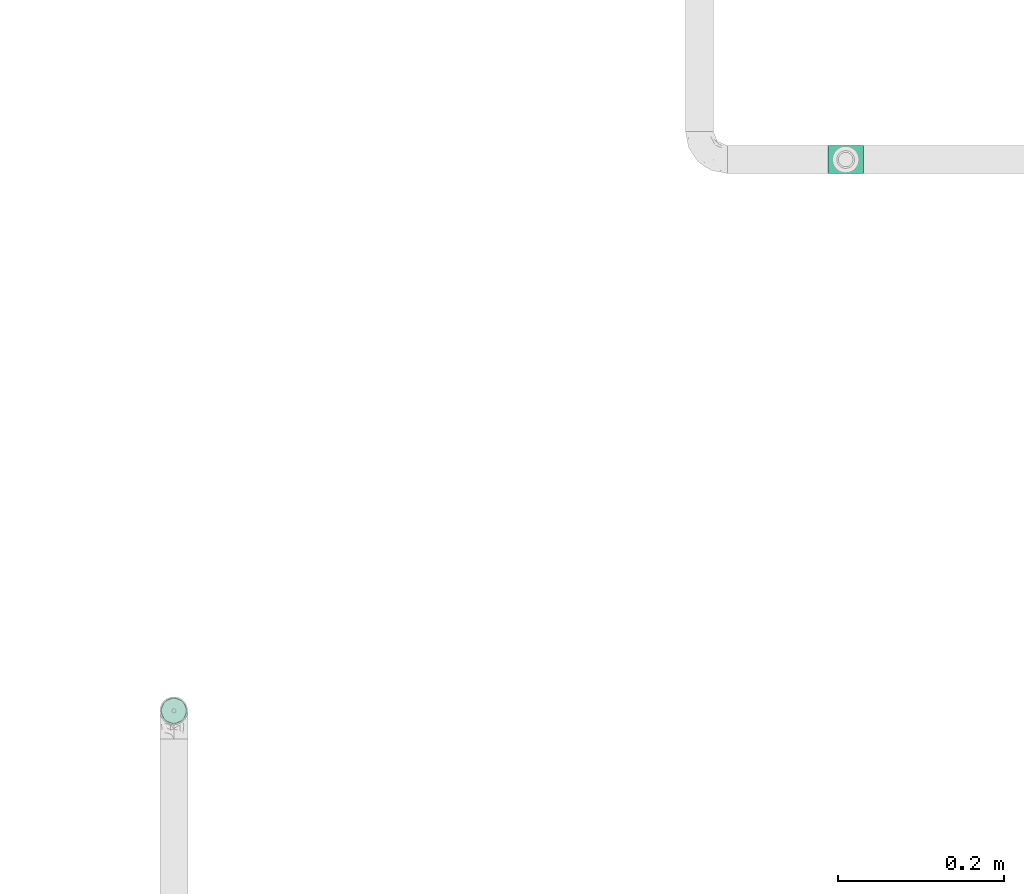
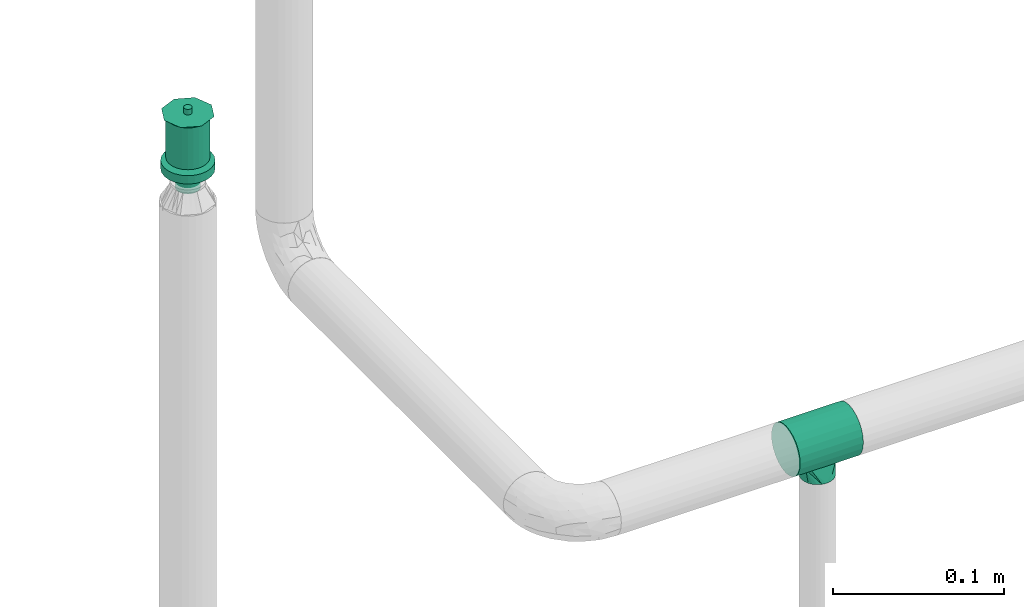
# One storey, part 62 of 94: 1 flow fitting, 1 flow terminal.
"""IFC2X3 building model written with IfcOpenShell, lengths in millimetres."""

from ifc_helpers import new_model, entity, si_unit, converted_unit, derived_unit, direction, frame, origin_with_axes, place, context, subcontext, project, spatial, open_shell, surface_model, source, transform, mapped, type_object, element, save


model = new_model("IFC2X3")

# Units and contexts
model_context = context("Model", 3, precision=0.01, world=frame((0.0, 4.29681676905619e-09, 0.0)), true_north=direction((4.01073788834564e-13, 1.0)))
plan_context = context("Plan", 3, precision=0.01, world=frame((0.0, 4.29681676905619e-09, 0.0)), true_north=direction((4.01073788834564e-13, 1.0)))
body_context = subcontext(model_context, "Body", "Model", "MODEL_VIEW")
ifc_project = project(units=[converted_unit("PLANEANGLEUNIT", "DEGREE", entity("IfcPositiveLengthMeasure", 0.0174532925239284), si_unit("PLANEANGLEUNIT", "RADIAN"), dimensions=[0, 0, 0, 0, 0, 0, 0]), si_unit("AREAUNIT", "SQUARE_METRE"), si_unit("LENGTHUNIT", "METRE", prefix="MILLI"), si_unit("MASSUNIT", "GRAM", prefix="KILO"), si_unit("POWERUNIT", "WATT"), si_unit("PRESSUREUNIT", "PASCAL", prefix="KILO"), si_unit("FORCEUNIT", "NEWTON", prefix="KILO"), si_unit("ELECTRICVOLTAGEUNIT", "VOLT"), si_unit("ELECTRICCURRENTUNIT", "AMPERE"), si_unit("THERMODYNAMICTEMPERATUREUNIT", "DEGREE_CELSIUS"), si_unit("TIMEUNIT", "SECOND"), si_unit("VOLUMEUNIT", "CUBIC_METRE"), derived_unit("LINEARVELOCITYUNIT", [(si_unit("LENGTHUNIT", "METRE"), 1), (si_unit("TIMEUNIT", "SECOND"), -1)]), derived_unit("VOLUMETRICFLOWRATEUNIT", [(si_unit("VOLUMEUNIT", "CUBIC_METRE"), 1), (si_unit("TIMEUNIT", "SECOND"), -1)]), derived_unit("THERMALTRANSMITTANCEUNIT", [(si_unit("POWERUNIT", "WATT"), 1), (si_unit("THERMODYNAMICTEMPERATUREUNIT", "KELVIN"), -1), (si_unit("AREAUNIT", "SQUARE_METRE"), -1)]), derived_unit("SOUNDPRESSUREUNIT", [(si_unit("PRESSUREUNIT", "PASCAL"), 1)])], contexts=[model_context, plan_context])

# Site, building, storey
site_placement = place(None, frame((0.0, -4.29681676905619e-09, 0.0), z_axis=(0.0, 0.0, 1.0), x_axis=(1.0, 0.0, 0.0)))
site = spatial("IfcSite", under=ifc_project, at=site_placement, CompositionType="ELEMENT")
building_placement = place(site_placement, frame((0.0, 4.29681676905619e-09, 0.0), z_axis=(0.0, 0.0, 1.0), x_axis=(1.0, 0.0, 0.0)))
building = spatial("IfcBuilding", under=site, at=building_placement, Name="mc-building", CompositionType="ELEMENT")
storey_placement = place(building_placement, frame((0.0, 0.0, 210900.0), z_axis=(0.0, 0.0, 1.0), x_axis=(1.0, 0.0, 0.0)))
storey = spatial("IfcBuildingStorey", under=building, at=storey_placement, Name="Nivå F", CompositionType="ELEMENT", Elevation=210900.0)

# Flow fitting
pipe_fitting_type = type_object("IfcPipeFittingType", Name="magi_pipe_fe_tee_centric_90_NOR", PredefinedType="JUNCTION")
shared_shape_1 = source(origin_with_axes(), body_context, "Body", "SurfaceModel", [
    surface_model("IfcShellBasedSurfaceModel", [(-21.4, 0.0, -16.9), (-21.4, -16.9, 0.0), (-21.4, 4.37404, -16.32415), (-21.4, 8.45, -14.63583), (-21.4, 11.9501, -11.9501), (-21.4, 16.32415, -4.37404), (-21.4, 14.63583, -8.45), (-21.4, -16.32415, 4.37404), (-21.4, -11.9501, -11.9501), (-21.4, -14.63583, -8.45), (-21.4, -8.45, -14.63583), (-21.4, -4.37404, -16.32415), (-21.4, -16.32415, -4.37404), (-21.4, 16.32415, 4.37404), (-21.4, 16.9, 0.0), (-21.4, 8.45, 14.63583), (-21.4, 14.63583, 8.45), (-21.4, -8.45, 14.63583), (-21.4, 11.9501, 11.9501), (-21.4, 4.37404, 16.32415), (-21.4, -11.9501, 11.9501), (-21.4, -14.63583, 8.45), (-21.4, -4.37404, 16.32415), (-21.4, 0.0, 16.9), (21.4, 4.37404, -16.32415), (21.4, -16.32415, -4.37404), (21.4, 0.0, -16.9), (21.4, 14.63583, -8.45), (21.4, 8.45, -14.63583), (21.4, 8.45, 14.63583), (21.4, 11.9501, -11.9501), (21.4, -11.9501, -11.9501), (21.4, -8.45, -14.63583), (21.4, -4.37404, -16.32415), (21.4, -14.63583, -8.45), (21.4, -16.9, 0.0), (21.4, 16.32415, -4.37404), (21.4, 16.32415, 4.37404), (21.4, 14.63583, 8.45), (21.4, -8.45, 14.63583), (21.4, 11.9501, 11.9501), (21.4, 4.37404, 16.32415), (21.4, -14.63583, 8.45), (21.4, -11.9501, 11.9501), (21.4, -16.32415, 4.37404), (21.4, 0.0, 16.9), (21.4, -4.37404, 16.32415), (21.4, 16.9, 0.0), (10.02449, -16.48061, 3.7416), (10.7, -16.9, 0.0), (8.16297, -15.41927, 6.9178), (5.39457, -14.14996, 9.24059), (21.4, -15.47999, 6.41202), (1.90748, -13.21962, 10.5286), (-8.16537, -15.42055, 6.91497), (-21.4, -15.47999, 6.41202), (-10.02486, -16.48083, 3.74061), (-21.4, -16.61207, 2.18702), (-10.36243, -16.69042, 1.8703), (-10.7, -16.9, 0.0), (-5.39553, -14.15033, 9.24003), (-1.91068, -13.22009, 10.52802), (-8.16537, -15.42055, -6.91497), (-21.4, -15.47999, -6.41202), (8.16297, -15.41927, -6.9178), (21.4, -15.47999, -6.41202), (-10.36243, -16.69042, -1.8703), (5.39457, -14.14996, -9.24059), (-21.4, -16.61207, -2.18702), (-10.02486, -16.48083, -3.74061), (1.90748, -13.21962, -10.5286), (10.02449, -16.48061, -3.7416), (-1.91068, -13.22009, -10.52802), (-5.39553, -14.15033, -9.24003), (0.0, -25.35, -10.7), (2.76936, -25.35, -10.33541), (5.35, -25.35, -9.26647), (7.56604, -25.35, -7.56604), (2.76936, -25.35, 10.33541), (9.26647, -25.35, -5.35), (-7.56604, -25.35, -7.56604), (-2.76936, -25.35, -10.33541), (-5.35, -25.35, -9.26647), (-9.26647, -25.35, -5.35), (-10.7, -25.35, 0.0), (-10.33541, -25.35, -2.76936), (10.7, -25.35, 0.0), (10.33541, -25.35, -2.76936), (10.33541, -25.35, 2.76936), (9.26647, -25.35, 5.35), (7.56604, -25.35, 7.56604), (5.35, -25.35, 9.26647), (-10.33541, -25.35, 2.76936), (-7.56604, -25.35, 7.56604), (-9.26647, -25.35, 5.35), (0.0, -25.35, 10.7), (-2.76936, -25.35, 10.33541), (-5.35, -25.35, 9.26647)], [open_shell([[[0, 1, 2]], [[3, 2, 4]], [[2, 5, 6]], [[4, 2, 6]], [[2, 1, 7]], [[8, 9, 10]], [[0, 11, 10]], [[12, 1, 9]], [[10, 9, 1]], [[10, 1, 0]], [[7, 5, 2]], [[13, 14, 15]], [[16, 13, 15]], [[17, 15, 14]], [[18, 16, 15]], [[19, 15, 17]], [[20, 17, 21]], [[7, 21, 17]], [[22, 23, 17]], [[14, 7, 17]], [[17, 23, 19]], [[5, 7, 14]], [[24, 25, 26]], [[27, 24, 28]], [[25, 24, 29]], [[27, 28, 30]], [[29, 24, 27]], [[26, 31, 32]], [[32, 33, 26]], [[26, 25, 34]], [[31, 26, 34]], [[35, 25, 29]], [[27, 36, 37]], [[37, 38, 27]], [[27, 38, 29]], [[39, 35, 29]], [[29, 38, 40]], [[39, 29, 41]], [[42, 39, 43]], [[39, 42, 44]], [[39, 45, 46]], [[44, 35, 39]], [[41, 45, 39]], [[36, 47, 37]], [[35, 44, 48]], [[48, 49, 35]], [[44, 50, 48]], [[42, 43, 51]], [[50, 44, 52]], [[51, 50, 42]], [[53, 51, 43]], [[43, 20, 53]], [[42, 50, 52]], [[54, 21, 55]], [[56, 57, 58]], [[59, 58, 1]], [[56, 54, 7]], [[60, 61, 20]], [[1, 58, 57]], [[60, 21, 54]], [[21, 60, 20]], [[54, 55, 7]], [[61, 53, 20]], [[56, 7, 57]], [[43, 17, 20]], [[23, 46, 45]], [[22, 39, 46]], [[19, 45, 41]], [[38, 37, 13]], [[18, 29, 40]], [[16, 40, 38]], [[41, 29, 15]], [[14, 37, 47]], [[17, 39, 22]], [[22, 46, 23]], [[19, 23, 45]], [[41, 15, 19]], [[15, 29, 18]], [[16, 18, 40]], [[13, 16, 38]], [[37, 14, 13]], [[39, 17, 43]], [[14, 47, 36]], [[36, 27, 5]], [[30, 6, 27]], [[11, 26, 33]], [[2, 28, 24]], [[62, 12, 63]], [[26, 0, 24]], [[33, 32, 10]], [[30, 28, 3]], [[64, 34, 65]], [[6, 5, 27]], [[14, 36, 5]], [[30, 4, 6]], [[1, 66, 59]], [[3, 28, 2]], [[0, 2, 24]], [[26, 11, 0]], [[33, 10, 11]], [[4, 30, 3]], [[32, 8, 10]], [[31, 34, 67]], [[68, 69, 66]], [[67, 70, 31]], [[34, 64, 67]], [[31, 70, 8]], [[25, 35, 71]], [[71, 64, 25]], [[49, 71, 35]], [[25, 64, 65]], [[72, 73, 8]], [[9, 8, 73]], [[73, 62, 9]], [[72, 8, 70]], [[62, 69, 12]], [[69, 68, 12]], [[66, 1, 68]], [[62, 63, 9]], [[31, 8, 32]], [[74, 75, 76]], [[74, 76, 77]], [[78, 77, 79]], [[74, 77, 80]], [[77, 78, 80]], [[81, 80, 82]], [[81, 74, 80]], [[83, 84, 85]], [[84, 83, 80]], [[80, 78, 84]], [[86, 79, 87]], [[79, 88, 78]], [[78, 88, 89]], [[90, 91, 78]], [[90, 78, 89]], [[84, 78, 92]], [[92, 93, 94]], [[93, 92, 95]], [[93, 96, 97]], [[96, 93, 95]], [[92, 78, 95]], [[88, 79, 86]], [[59, 84, 92]], [[56, 94, 93]], [[92, 94, 59]], [[93, 97, 56]], [[59, 94, 56]], [[54, 56, 96]], [[61, 60, 51]], [[54, 50, 60]], [[96, 95, 54]], [[97, 96, 56]], [[78, 50, 95]], [[91, 48, 78]], [[48, 90, 89]], [[91, 90, 48]], [[49, 89, 88]], [[51, 53, 61]], [[50, 51, 60]], [[89, 49, 48]], [[48, 50, 78]], [[49, 88, 86]], [[54, 95, 50]], [[49, 86, 87]], [[71, 79, 77]], [[87, 79, 49]], [[77, 76, 71]], [[49, 79, 71]], [[64, 71, 75]], [[70, 67, 72]], [[64, 73, 67]], [[75, 74, 64]], [[76, 75, 71]], [[62, 74, 81]], [[82, 69, 81]], [[69, 80, 83]], [[82, 80, 69]], [[59, 83, 85]], [[73, 72, 67]], [[62, 73, 64]], [[83, 59, 69]], [[69, 62, 81]], [[59, 85, 84]], [[64, 74, 62]]])]),
])
flow_fitting_placement = place(storey_placement, frame((724550.88364, 440510.4939, 3500.0), z_axis=(0.0, -1.0, 0.0), x_axis=(1.0, 0.0, 0.0)))
element("IfcFlowFitting", 1, at=flow_fitting_placement, inside=storey, type_object=pipe_fitting_type, Name="magi_pipe_fe_tee_centric_90_NOR", context=body_context, shape_type="MappedRepresentation", body=[
    mapped(shared_shape_1, transform((0.0, 0.0, 0.0), scale=1.0)),
])

# Flow terminal
fire_suppression_terminal_type = type_object("IfcFireSuppressionTerminalType", Name="68DGR-STD-STÅENDE", PredefinedType="NOTDEFINED")
shared_shape_2 = source(origin_with_axes(), body_context, "Body", "SurfaceModel", [
    surface_model("IfcShellBasedSurfaceModel", [(3.36465, -12.55704, 51.0), (6.5, -11.25833, 51.0), (9.19239, -9.19239, 51.0), (12.55704, -3.36465, 51.0), (-11.25833, -6.5, 51.0), (11.25833, -6.5, 51.0), (-13.0, 0.0, 51.0), (0.0, -13.0, 51.0), (-6.5, -11.25833, 51.0), (-3.36465, -12.55704, 51.0), (-9.19239, -9.19239, 51.0), (-12.55704, -3.36465, 51.0), (13.0, 0.0, 51.0), (12.55704, 3.36465, 51.0), (11.25833, 6.5, 51.0), (9.19239, 9.19239, 51.0), (6.5, 11.25833, 51.0), (3.36465, 12.55704, 51.0), (0.0, 13.0, 51.0), (-3.36465, 12.55704, 51.0), (-12.55704, 3.36465, 51.0), (-9.19239, 9.19239, 51.0), (-11.25833, 6.5, 51.0), (-6.5, 11.25833, 51.0), (0.0, 13.0, 21.14766), (3.36465, 12.55704, 21.14766), (6.5, 11.25833, 21.14766), (-3.36465, 12.55704, 21.14766), (9.19239, 9.19239, 21.14766), (11.25833, 6.5, 21.14766), (12.55704, 3.36465, 21.14766), (-12.55704, 3.36465, 21.14766), (-11.25833, -6.5, 21.14766), (-9.19239, 9.19239, 21.14766), (-6.5, 11.25833, 21.14766), (-11.25833, 6.5, 21.14766), (-13.0, 0.0, 21.14766), (12.55704, -3.36465, 21.14766), (9.19239, -9.19239, 21.14766), (11.25833, -6.5, 21.14766), (6.5, -11.25833, 21.14766), (3.36465, -12.55704, 21.14766), (-6.5, -11.25833, 21.14766), (-9.19239, -9.19239, 21.14766), (-12.55704, -3.36465, 21.14766), (0.0, -13.0, 21.14766), (-3.36465, -12.55704, 21.14766), (13.0, 0.0, 21.14766), (7.24444, -1.94114, 0.1), (1.94114, -7.24444, 0.1), (3.75, -6.49519, 0.1), (5.3033, -5.3033, 0.1), (-5.3033, -5.3033, 0.1), (6.49519, -3.75, 0.1), (5.3033, 5.3033, 0.1), (0.0, -7.5, 0.1), (-3.75, -6.49519, 0.1), (-1.94114, -7.24444, 0.1), (-7.24444, -1.94114, 0.1), (-6.49519, -3.75, 0.1), (-7.24444, 1.94114, 0.1), (7.5, 0.0, 0.1), (6.49519, 3.75, 0.1), (-6.49519, 3.75, 0.1), (1.94114, 7.24444, 0.1), (0.0, 7.5, 0.1), (3.75, 6.49519, 0.1), (-7.5, 0.0, 0.1), (-5.3033, 5.3033, 0.1), (-1.94114, 7.24444, 0.1), (-3.75, 6.49519, 0.1), (7.24444, 1.94114, 0.1), (1.94114, 7.24444, -0.1), (-6.49519, 3.75, -0.1), (0.0, 7.5, -0.1), (5.3033, 5.3033, -0.1), (3.75, 6.49519, -0.1), (6.49519, 3.75, -0.1), (7.24444, 1.94114, -0.1), (-1.94114, 7.24444, -0.1), (-5.3033, 5.3033, -0.1), (-3.75, 6.49519, -0.1), (-7.24444, 1.94114, -0.1), (-7.24444, -1.94114, -0.1), (-7.5, 0.0, -0.1), (7.5, 0.0, -0.1), (7.24444, -1.94114, -0.1), (-5.3033, -5.3033, -0.1), (1.94114, -7.24444, -0.1), (6.49519, -3.75, -0.1), (5.3033, -5.3033, -0.1), (3.75, -6.49519, -0.1), (-6.49519, -3.75, -0.1), (-3.75, -6.49519, -0.1), (0.0, -7.5, -0.1), (-1.94114, -7.24444, -0.1), (0.0, -2.5, 51.0), (-2.5, 0.0, 51.0), (0.0, 2.5, 51.0), (2.5, 0.0, 51.0), (0.0, -16.0, 53.0), (11.31371, -11.31371, 53.0), (-11.31371, -11.31371, 53.0), (-16.0, 0.0, 53.0), (16.0, 0.0, 53.0), (11.31371, 11.31371, 53.0), (0.0, 16.0, 53.0), (-11.31371, 11.31371, 53.0), (1.25, -2.16506, 57.0), (0.0, -2.5, 57.0), (0.64705, -2.41481, 57.0), (2.41481, -0.64705, 57.0), (1.76777, -1.76777, 57.0), (-2.41481, -0.64705, 57.0), (-2.5, 0.0, 57.0), (2.16506, -1.25, 57.0), (-1.25, -2.16506, 57.0), (-0.64705, -2.41481, 57.0), (-1.76777, -1.76777, 57.0), (-2.16506, -1.25, 57.0), (2.5, 0.0, 57.0), (2.41481, 0.64705, 57.0), (2.16506, 1.25, 57.0), (1.76777, 1.76777, 57.0), (0.64705, 2.41481, 57.0), (1.25, 2.16506, 57.0), (-1.76777, 1.76777, 57.0), (0.0, 2.5, 57.0), (-2.16506, 1.25, 57.0), (-2.41481, 0.64705, 57.0), (-0.64705, 2.41481, 57.0), (-1.25, 2.16506, 57.0), (1.25, 2.16506, 51.0), (1.76777, 1.76777, 51.0), (1.15, 1.99186, 51.0), (0.59528, 2.22163, 51.0), (0.64705, 2.41481, 51.0), (0.0, 2.3, 51.0), (1.62635, 1.62635, 51.0), (2.41481, 0.64705, 51.0), (2.3, 0.0, 51.0), (2.22163, 0.59528, 51.0), (2.16506, 1.25, 51.0), (1.99186, 1.15, 51.0), (-0.59528, 2.22163, 51.0), (-0.64705, 2.41481, 51.0), (-1.15, 1.99186, 51.0), (-1.76777, 1.76777, 51.0), (-1.25, 2.16506, 51.0), (-1.62635, 1.62635, 51.0), (-1.99186, 1.15, 51.0), (-2.16506, 1.25, 51.0), (-2.22163, 0.59528, 51.0), (-2.41481, 0.64705, 51.0), (-2.3, 0.0, 51.0), (2.41481, -0.64705, 51.0), (2.22163, -0.59528, 51.0), (1.99186, -1.15, 51.0), (2.16506, -1.25, 51.0), (1.62635, -1.62635, 51.0), (1.76777, -1.76777, 51.0), (1.25, -2.16506, 51.0), (1.15, -1.99186, 51.0), (0.59528, -2.22163, 51.0), (0.64705, -2.41481, 51.0), (0.0, -2.3, 51.0), (-2.16506, -1.25, 51.0), (-1.99186, -1.15, 51.0), (-1.76777, -1.76777, 51.0), (-1.62635, -1.62635, 51.0), (-2.41481, -0.64705, 51.0), (-2.22163, -0.59528, 51.0), (-0.59528, -2.22163, 51.0), (-0.64705, -2.41481, 51.0), (-1.15, -1.99186, 51.0), (-1.25, -2.16506, 51.0), (1.62635, -1.62635, 56.8), (1.15, -1.99186, 56.8), (0.59528, -2.22163, 56.8), (0.0, -2.3, 56.8), (2.22163, 0.59528, 56.8), (1.99186, -1.15, 56.8), (2.22163, -0.59528, 56.8), (-0.59528, -2.22163, 56.8), (-1.15, -1.99186, 56.8), (-1.62635, -1.62635, 56.8), (-1.99186, -1.15, 56.8), (-2.22163, -0.59528, 56.8), (-1.99186, 1.15, 56.8), (2.3, 0.0, 56.8), (1.62635, 1.62635, 56.8), (1.99186, 1.15, 56.8), (1.15, 1.99186, 56.8), (0.0, 2.3, 56.8), (0.59528, 2.22163, 56.8), (-2.22163, 0.59528, 56.8), (-2.3, 0.0, 56.8), (-1.15, 1.99186, 56.8), (-0.59528, 2.22163, 56.8), (-1.62635, 1.62635, 56.8), (4.1411, -15.45481, 19.0), (8.0, -13.85641, 19.0), (11.31371, -11.31371, 19.0), (-8.0, -13.85641, 19.0), (15.45481, -4.1411, 19.0), (16.0, 0.0, 19.0), (13.85641, -8.0, 19.0), (0.0, -16.0, 19.0), (-4.1411, -15.45481, 19.0), (-13.85641, -8.0, 19.0), (-11.31371, -11.31371, 19.0), (-15.45481, -4.1411, 19.0), (15.45481, 4.1411, 19.0), (13.85641, 8.0, 19.0), (11.31371, 11.31371, 19.0), (-4.1411, 15.45481, 19.0), (8.0, 13.85641, 19.0), (4.1411, 15.45481, 19.0), (0.0, 16.0, 19.0), (-13.85641, 8.0, 19.0), (-15.45481, 4.1411, 19.0), (-16.0, 0.0, 19.0), (-11.31371, 11.31371, 19.0), (-8.0, 13.85641, 19.0), (0.0, 16.0, 13.0), (4.1411, 15.45481, 13.0), (8.0, 13.85641, 13.0), (-4.1411, 15.45481, 13.0), (11.31371, 11.31371, 13.0), (13.85641, 8.0, 13.0), (15.45481, 4.1411, 13.0), (-15.45481, -4.1411, 13.0), (-11.31371, 11.31371, 13.0), (-8.0, 13.85641, 13.0), (-13.85641, 8.0, 13.0), (-15.45481, 4.1411, 13.0), (-16.0, 0.0, 13.0), (4.1411, -15.45481, 13.0), (16.0, 0.0, 13.0), (15.45481, -4.1411, 13.0), (13.85641, -8.0, 13.0), (11.31371, -11.31371, 13.0), (8.0, -13.85641, 13.0), (-8.0, -13.85641, 13.0), (-13.85641, -8.0, 13.0), (-11.31371, -11.31371, 13.0), (0.0, -16.0, 13.0), (-4.1411, -15.45481, 13.0), (7.24444, -1.94114, 13.0), (1.94114, -7.24444, 13.0), (3.75, -6.49519, 13.0), (5.3033, -5.3033, 13.0), (-5.3033, -5.3033, 13.0), (6.49519, -3.75, 13.0), (5.3033, 5.3033, 13.0), (0.0, -7.5, 13.0), (-3.75, -6.49519, 13.0), (-1.94114, -7.24444, 13.0), (-7.24444, -1.94114, 13.0), (-6.49519, -3.75, 13.0), (-7.24444, 1.94114, 13.0), (7.5, 0.0, 13.0), (6.49519, 3.75, 13.0), (-6.49519, 3.75, 13.0), (1.94114, 7.24444, 13.0), (0.0, 7.5, 13.0), (3.75, 6.49519, 13.0), (-7.5, 0.0, 13.0), (-5.3033, 5.3033, 13.0), (-1.94114, 7.24444, 13.0), (-3.75, 6.49519, 13.0), (7.24444, 1.94114, 13.0), (3.75, 6.49519, 0.0), (5.3033, 5.3033, 0.0), (3.65, 6.32199, 0.0), (1.88938, 7.05126, 0.0), (0.0, 7.3, 0.0), (1.94114, 7.24444, 0.0), (0.0, 7.5, 0.0), (5.16188, 5.16188, 0.0), (7.24444, 1.94114, 0.0), (7.3, 0.0, 0.0), (7.05126, 1.88938, 0.0), (7.5, 0.0, 0.0), (6.49519, 3.75, 0.0), (6.32199, 3.65, 0.0), (-1.88938, 7.05126, 0.0), (-1.94114, 7.24444, 0.0), (-3.65, 6.32199, 0.0), (-5.3033, 5.3033, 0.0), (-3.75, 6.49519, 0.0), (-5.16188, 5.16188, 0.0), (-6.32199, 3.65, 0.0), (-6.49519, 3.75, 0.0), (-7.05126, 1.88938, 0.0), (-7.24444, 1.94114, 0.0), (-7.3, 0.0, 0.0), (-7.5, 0.0, 0.0), (7.24444, -1.94114, 0.0), (7.05126, -1.88938, 0.0), (6.32199, -3.65, 0.0), (6.49519, -3.75, 0.0), (5.16188, -5.16188, 0.0), (5.3033, -5.3033, 0.0), (3.75, -6.49519, 0.0), (3.65, -6.32199, 0.0), (1.88938, -7.05126, 0.0), (1.94114, -7.24444, 0.0), (0.0, -7.3, 0.0), (0.0, -7.5, 0.0), (-6.49519, -3.75, 0.0), (-6.32199, -3.65, 0.0), (-5.3033, -5.3033, 0.0), (-5.16188, -5.16188, 0.0), (-7.24444, -1.94114, 0.0), (-7.05126, -1.88938, 0.0), (-1.88938, -7.05126, 0.0), (-1.94114, -7.24444, 0.0), (-3.65, -6.32199, 0.0), (-3.75, -6.49519, 0.0), (1.88938, -7.05126, 12.8), (0.0, -7.3, 12.8), (3.65, -6.32199, 12.8), (5.16188, -5.16188, 12.8), (6.32199, -3.65, 12.8), (7.05126, 1.88938, 12.8), (7.05126, -1.88938, 12.8), (-5.16188, -5.16188, 12.8), (-1.88938, -7.05126, 12.8), (-3.65, -6.32199, 12.8), (-6.32199, -3.65, 12.8), (-7.05126, -1.88938, 12.8), (0.0, 7.3, 12.8), (7.3, 0.0, 12.8), (6.32199, 3.65, 12.8), (5.16188, 5.16188, 12.8), (3.65, 6.32199, 12.8), (1.88938, 7.05126, 12.8), (-6.32199, 3.65, 12.8), (-7.05126, 1.88938, 12.8), (-7.3, 0.0, 12.8), (-3.65, 6.32199, 12.8), (-1.88938, 7.05126, 12.8), (-5.16188, 5.16188, 12.8)], [open_shell([[[0, 1, 2]], [[0, 2, 3]], [[0, 3, 4]], [[3, 2, 5]], [[6, 4, 3]], [[7, 8, 9]], [[7, 0, 8]], [[8, 4, 10]], [[0, 4, 8]], [[4, 6, 11]], [[6, 3, 12]], [[13, 14, 15]], [[6, 13, 15]], [[16, 17, 18]], [[15, 16, 19]], [[18, 19, 16]], [[20, 21, 22]], [[20, 6, 15]], [[21, 19, 23]], [[19, 21, 20]], [[15, 19, 20]], [[13, 6, 12]], [[24, 25, 26]], [[27, 24, 26]], [[28, 29, 30]], [[26, 28, 31]], [[28, 32, 31]], [[27, 33, 34]], [[33, 27, 31]], [[33, 31, 35]], [[27, 26, 31]], [[31, 32, 36]], [[32, 28, 30]], [[32, 30, 37]], [[38, 37, 39]], [[38, 40, 41]], [[38, 41, 37]], [[32, 37, 41]], [[32, 42, 43]], [[44, 36, 32]], [[42, 45, 46]], [[42, 32, 41]], [[45, 42, 41]], [[30, 47, 37]], [[4, 32, 43]], [[8, 42, 46]], [[43, 42, 10]], [[9, 46, 45]], [[36, 11, 6]], [[11, 36, 44]], [[11, 44, 4]], [[44, 32, 4]], [[43, 10, 4]], [[8, 10, 42]], [[46, 9, 8]], [[45, 7, 9]], [[0, 41, 40]], [[38, 1, 40]], [[5, 39, 37]], [[38, 39, 2]], [[3, 37, 47]], [[41, 0, 7]], [[40, 1, 0]], [[38, 2, 1]], [[39, 5, 2]], [[3, 5, 37]], [[47, 12, 3]], [[41, 7, 45]], [[30, 13, 47]], [[29, 14, 30]], [[25, 24, 17]], [[15, 29, 28]], [[30, 14, 13]], [[13, 12, 47]], [[16, 26, 17]], [[16, 15, 28]], [[26, 25, 17]], [[15, 14, 29]], [[28, 26, 16]], [[24, 18, 17]], [[19, 27, 34]], [[33, 23, 34]], [[22, 35, 31]], [[33, 35, 21]], [[20, 31, 36]], [[27, 19, 18]], [[34, 23, 19]], [[33, 21, 23]], [[35, 22, 21]], [[20, 22, 31]], [[36, 6, 20]], [[27, 18, 24]], [[48, 49, 50]], [[48, 50, 51]], [[49, 48, 52]], [[48, 51, 53]], [[54, 52, 48]], [[55, 56, 57]], [[56, 55, 52]], [[52, 58, 59]], [[52, 55, 49]], [[52, 60, 58]], [[54, 48, 61]], [[62, 54, 61]], [[54, 63, 52]], [[64, 65, 54]], [[64, 54, 66]], [[63, 54, 65]], [[63, 60, 52]], [[67, 58, 60]], [[68, 69, 70]], [[69, 68, 63]], [[69, 63, 65]], [[71, 62, 61]], [[72, 73, 74]], [[75, 72, 76]], [[75, 77, 78]], [[72, 75, 73]], [[78, 73, 75]], [[79, 80, 81]], [[80, 79, 73]], [[74, 73, 79]], [[78, 82, 73]], [[82, 83, 84]], [[82, 78, 85]], [[86, 87, 85]], [[88, 86, 89]], [[90, 91, 88]], [[90, 88, 89]], [[87, 86, 88]], [[83, 87, 92]], [[83, 85, 87]], [[93, 94, 95]], [[94, 93, 87]], [[88, 94, 87]], [[85, 83, 82]], [[83, 58, 84]], [[92, 59, 83]], [[56, 87, 93]], [[92, 87, 52]], [[57, 93, 95]], [[83, 59, 58]], [[58, 67, 84]], [[57, 56, 93]], [[52, 87, 56]], [[52, 59, 92]], [[55, 57, 95]], [[95, 94, 55]], [[88, 49, 94]], [[91, 50, 88]], [[53, 90, 89]], [[91, 90, 51]], [[48, 89, 86]], [[91, 51, 50]], [[50, 49, 88]], [[61, 48, 86]], [[53, 89, 48]], [[53, 51, 90]], [[85, 61, 86]], [[94, 49, 55]], [[78, 71, 85]], [[77, 62, 78]], [[66, 75, 76]], [[77, 75, 54]], [[64, 76, 72]], [[78, 62, 71]], [[71, 61, 85]], [[64, 66, 76]], [[54, 75, 66]], [[54, 62, 77]], [[65, 64, 72]], [[72, 74, 65]], [[79, 69, 74]], [[81, 70, 79]], [[63, 80, 73]], [[81, 80, 68]], [[60, 73, 82]], [[81, 68, 70]], [[70, 69, 79]], [[67, 60, 82]], [[63, 73, 60]], [[63, 68, 80]], [[84, 67, 82]], [[74, 69, 65]], [[96, 97, 98]], [[98, 99, 96]], [[100, 101, 102]], [[103, 102, 101]], [[101, 104, 103]], [[104, 105, 106]], [[107, 103, 106]], [[106, 103, 104]], [[99, 98, 105]], [[105, 104, 99]], [[98, 106, 105]], [[98, 107, 106]], [[107, 98, 97]], [[103, 107, 97]], [[97, 96, 102]], [[102, 103, 97]], [[96, 100, 102]], [[96, 101, 100]], [[101, 96, 99]], [[104, 101, 99]], [[108, 109, 110]], [[111, 108, 112]], [[113, 108, 114]], [[111, 112, 115]], [[108, 111, 114]], [[109, 116, 117]], [[116, 109, 118]], [[118, 113, 119]], [[118, 109, 108]], [[108, 113, 118]], [[111, 120, 114]], [[121, 122, 123]], [[114, 121, 123]], [[114, 123, 124]], [[124, 123, 125]], [[126, 124, 127]], [[124, 128, 129]], [[129, 114, 124]], [[126, 130, 131]], [[128, 124, 126]], [[130, 126, 127]], [[121, 114, 120]], [[132, 133, 134]], [[132, 134, 135]], [[136, 135, 137]], [[135, 136, 132]], [[136, 137, 98]], [[134, 133, 138]], [[139, 140, 141]], [[140, 139, 99]], [[139, 141, 142]], [[138, 142, 143]], [[142, 138, 133]], [[143, 142, 141]], [[98, 144, 145]], [[98, 137, 144]], [[145, 144, 146]], [[147, 148, 149]], [[146, 148, 145]], [[149, 148, 146]], [[150, 151, 147]], [[151, 150, 152]], [[150, 147, 149]], [[153, 152, 154]], [[152, 153, 151]], [[153, 154, 97]], [[99, 155, 156]], [[156, 155, 157]], [[157, 158, 159]], [[158, 157, 155]], [[159, 158, 160]], [[160, 161, 162]], [[162, 161, 163]], [[163, 164, 165]], [[164, 163, 161]], [[165, 164, 96]], [[162, 159, 160]], [[166, 167, 168]], [[168, 167, 169]], [[167, 166, 170]], [[97, 171, 170]], [[170, 171, 167]], [[97, 154, 171]], [[172, 96, 173]], [[172, 173, 174]], [[169, 175, 168]], [[175, 169, 174]], [[175, 174, 173]], [[165, 96, 172]], [[156, 140, 99]], [[170, 113, 97]], [[166, 119, 170]], [[116, 168, 175]], [[166, 168, 118]], [[117, 175, 173]], [[170, 119, 113]], [[113, 114, 97]], [[117, 116, 175]], [[118, 168, 116]], [[118, 119, 166]], [[109, 117, 173]], [[173, 96, 109]], [[164, 110, 96]], [[161, 108, 164]], [[115, 160, 158]], [[161, 160, 112]], [[111, 158, 155]], [[161, 112, 108]], [[108, 110, 164]], [[120, 111, 155]], [[115, 158, 111]], [[115, 112, 160]], [[99, 120, 155]], [[96, 110, 109]], [[139, 121, 99]], [[142, 122, 139]], [[125, 133, 132]], [[142, 133, 123]], [[124, 132, 136]], [[139, 122, 121]], [[121, 120, 99]], [[124, 125, 132]], [[123, 133, 125]], [[123, 122, 142]], [[127, 124, 136]], [[136, 98, 127]], [[145, 130, 98]], [[148, 131, 145]], [[128, 147, 151]], [[148, 147, 126]], [[129, 151, 153]], [[148, 126, 131]], [[131, 130, 145]], [[114, 129, 153]], [[128, 151, 129]], [[128, 126, 147]], [[97, 114, 153]], [[98, 130, 127]], [[176, 177, 178]], [[176, 178, 179]], [[180, 176, 179]], [[181, 176, 182]], [[180, 182, 176]], [[183, 184, 179]], [[185, 179, 184]], [[186, 187, 185]], [[185, 187, 188]], [[179, 185, 188]], [[189, 182, 180]], [[190, 191, 180]], [[192, 190, 180]], [[193, 194, 192]], [[180, 193, 192]], [[188, 193, 180]], [[195, 188, 196]], [[196, 188, 187]], [[197, 198, 199]], [[188, 199, 198]], [[188, 198, 193]], [[180, 179, 188]], [[154, 187, 171]], [[171, 186, 167]], [[174, 169, 184]], [[185, 169, 167]], [[172, 174, 183]], [[187, 186, 171]], [[154, 196, 187]], [[174, 184, 183]], [[184, 169, 185]], [[167, 186, 185]], [[172, 183, 179]], [[179, 165, 172]], [[165, 178, 163]], [[163, 177, 162]], [[157, 159, 181]], [[176, 159, 162]], [[156, 157, 182]], [[177, 176, 162]], [[163, 178, 177]], [[156, 182, 189]], [[182, 157, 181]], [[159, 176, 181]], [[156, 189, 140]], [[179, 178, 165]], [[140, 180, 141]], [[141, 191, 143]], [[134, 138, 192]], [[190, 138, 143]], [[135, 134, 194]], [[180, 191, 141]], [[140, 189, 180]], [[134, 192, 194]], [[192, 138, 190]], [[143, 191, 190]], [[135, 194, 193]], [[193, 137, 135]], [[137, 198, 144]], [[144, 197, 146]], [[150, 149, 188]], [[199, 149, 146]], [[152, 150, 195]], [[197, 199, 146]], [[144, 198, 197]], [[152, 195, 196]], [[195, 150, 188]], [[149, 199, 188]], [[152, 196, 154]], [[193, 198, 137]], [[200, 201, 202]], [[203, 200, 202]], [[204, 205, 202]], [[204, 202, 206]], [[203, 202, 205]], [[207, 203, 208]], [[207, 200, 203]], [[203, 209, 210]], [[209, 203, 211]], [[205, 211, 203]], [[205, 212, 211]], [[212, 213, 214]], [[215, 212, 214]], [[216, 217, 218]], [[214, 216, 215]], [[218, 215, 216]], [[211, 219, 220]], [[221, 211, 220]], [[222, 215, 223]], [[215, 222, 219]], [[219, 211, 215]], [[211, 212, 215]], [[224, 225, 226]], [[227, 224, 226]], [[228, 229, 230]], [[227, 226, 228]], [[227, 228, 231]], [[227, 232, 233]], [[232, 227, 234]], [[234, 231, 235]], [[231, 234, 227]], [[235, 231, 236]], [[228, 230, 231]], [[237, 238, 239]], [[237, 239, 240]], [[241, 242, 237]], [[241, 237, 240]], [[238, 237, 243]], [[244, 243, 245]], [[243, 244, 231]], [[243, 246, 247]], [[243, 231, 238]], [[237, 246, 243]], [[238, 231, 230]], [[231, 211, 236]], [[244, 209, 231]], [[203, 245, 243]], [[244, 245, 210]], [[208, 243, 247]], [[231, 209, 211]], [[211, 221, 236]], [[208, 203, 243]], [[210, 245, 203]], [[210, 209, 244]], [[207, 208, 247]], [[247, 246, 207]], [[237, 200, 246]], [[242, 201, 237]], [[206, 241, 240]], [[242, 241, 202]], [[204, 240, 239]], [[242, 202, 201]], [[201, 200, 237]], [[205, 204, 239]], [[206, 240, 204]], [[206, 202, 241]], [[238, 205, 239]], [[246, 200, 207]], [[230, 212, 238]], [[229, 213, 230]], [[216, 228, 226]], [[229, 228, 214]], [[217, 226, 225]], [[230, 213, 212]], [[212, 205, 238]], [[217, 216, 226]], [[214, 228, 216]], [[214, 213, 229]], [[218, 217, 225]], [[225, 224, 218]], [[227, 215, 224]], [[233, 223, 227]], [[219, 232, 234]], [[233, 232, 222]], [[220, 234, 235]], [[233, 222, 223]], [[223, 215, 227]], [[221, 220, 235]], [[219, 234, 220]], [[219, 222, 232]], [[236, 221, 235]], [[224, 215, 218]], [[248, 249, 250]], [[248, 250, 251]], [[249, 248, 252]], [[248, 251, 253]], [[254, 252, 248]], [[255, 256, 257]], [[256, 255, 252]], [[252, 258, 259]], [[252, 255, 249]], [[252, 260, 258]], [[254, 248, 261]], [[262, 254, 261]], [[254, 263, 252]], [[264, 265, 254]], [[264, 254, 266]], [[263, 254, 265]], [[263, 260, 252]], [[267, 258, 260]], [[268, 269, 270]], [[269, 268, 263]], [[269, 263, 265]], [[271, 262, 261]], [[272, 273, 274]], [[272, 274, 275]], [[276, 277, 275]], [[277, 276, 278]], [[275, 277, 272]], [[274, 273, 279]], [[280, 281, 282]], [[281, 280, 283]], [[280, 282, 284]], [[279, 284, 285]], [[284, 279, 273]], [[285, 284, 282]], [[278, 286, 287]], [[287, 286, 288]], [[289, 290, 291]], [[288, 290, 287]], [[288, 291, 290]], [[278, 276, 286]], [[292, 293, 289]], [[293, 292, 294]], [[292, 289, 291]], [[295, 294, 296]], [[294, 295, 293]], [[295, 296, 297]], [[283, 298, 299]], [[299, 298, 300]], [[300, 301, 302]], [[301, 300, 298]], [[302, 301, 303]], [[303, 304, 305]], [[305, 304, 306]], [[306, 307, 308]], [[307, 306, 304]], [[308, 307, 309]], [[305, 302, 303]], [[310, 311, 312]], [[312, 311, 313]], [[311, 310, 314]], [[297, 315, 314]], [[314, 315, 311]], [[297, 296, 315]], [[316, 309, 317]], [[316, 317, 318]], [[313, 319, 312]], [[313, 318, 319]], [[319, 318, 317]], [[308, 309, 316]], [[299, 281, 283]], [[314, 258, 297]], [[310, 259, 314]], [[256, 312, 319]], [[310, 312, 252]], [[257, 319, 317]], [[314, 259, 258]], [[258, 267, 297]], [[257, 256, 319]], [[252, 312, 256]], [[252, 259, 310]], [[255, 257, 317]], [[317, 309, 255]], [[307, 249, 309]], [[304, 250, 307]], [[253, 303, 301]], [[304, 303, 251]], [[248, 301, 298]], [[304, 251, 250]], [[250, 249, 307]], [[261, 248, 298]], [[253, 301, 248]], [[253, 251, 303]], [[283, 261, 298]], [[309, 249, 255]], [[280, 271, 283]], [[284, 262, 280]], [[266, 273, 272]], [[284, 273, 254]], [[264, 272, 277]], [[280, 262, 271]], [[271, 261, 283]], [[264, 266, 272]], [[254, 273, 266]], [[254, 262, 284]], [[265, 264, 277]], [[277, 278, 265]], [[287, 269, 278]], [[290, 270, 287]], [[263, 289, 293]], [[290, 289, 268]], [[260, 293, 295]], [[290, 268, 270]], [[270, 269, 287]], [[267, 260, 295]], [[263, 293, 260]], [[263, 268, 289]], [[297, 267, 295]], [[278, 269, 265]], [[320, 321, 322]], [[323, 322, 324]], [[325, 326, 322]], [[324, 322, 326]], [[322, 327, 325]], [[328, 329, 321]], [[327, 321, 329]], [[330, 331, 327]], [[322, 321, 327]], [[331, 332, 327]], [[326, 325, 333]], [[334, 325, 332]], [[335, 334, 336]], [[332, 337, 336]], [[334, 332, 336]], [[331, 338, 332]], [[339, 338, 340]], [[340, 338, 331]], [[341, 342, 343]], [[332, 338, 343]], [[332, 343, 342]], [[332, 325, 327]], [[296, 331, 315]], [[315, 330, 311]], [[318, 313, 329]], [[327, 313, 311]], [[316, 318, 328]], [[331, 330, 315]], [[296, 340, 331]], [[318, 329, 328]], [[329, 313, 327]], [[311, 330, 327]], [[316, 328, 321]], [[321, 308, 316]], [[308, 320, 306]], [[306, 322, 305]], [[300, 302, 324]], [[323, 302, 305]], [[299, 300, 326]], [[322, 323, 305]], [[306, 320, 322]], [[299, 326, 333]], [[326, 300, 324]], [[302, 323, 324]], [[299, 333, 281]], [[321, 320, 308]], [[281, 325, 282]], [[282, 334, 285]], [[274, 279, 336]], [[335, 279, 285]], [[275, 274, 337]], [[325, 334, 282]], [[281, 333, 325]], [[274, 336, 337]], [[336, 279, 335]], [[285, 334, 335]], [[275, 337, 332]], [[332, 276, 275]], [[276, 342, 286]], [[286, 341, 288]], [[292, 291, 338]], [[343, 291, 288]], [[294, 292, 339]], [[341, 343, 288]], [[286, 342, 341]], [[294, 339, 340]], [[339, 292, 338]], [[291, 343, 338]], [[294, 340, 296]], [[332, 342, 276]]])]),
])
flow_terminal_placement = place(storey_placement, frame((723741.0277, 439846.03424, 4367.0), z_axis=(0.0, 0.0, 1.0), x_axis=(1.0, 0.0, 0.0)))
element("IfcFlowTerminal", 2, at=flow_terminal_placement, inside=storey, type_object=fire_suppression_terminal_type, Name="68DGR-STD-STÅENDE", context=body_context, shape_type="MappedRepresentation", body=[
    mapped(shared_shape_2, transform((0.0, 0.0, 0.0), scale=1.0)),
])

save(model, "model.ifc")
